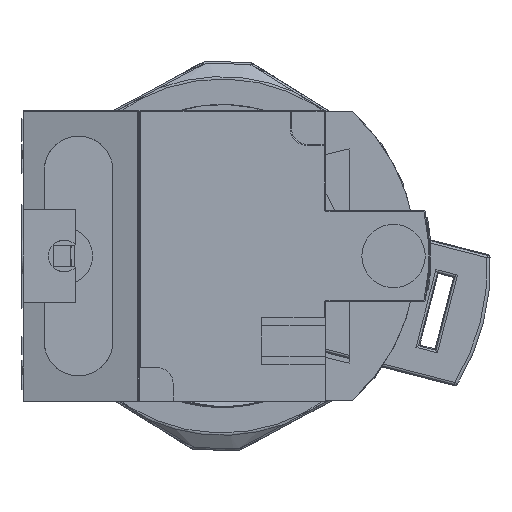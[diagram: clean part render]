
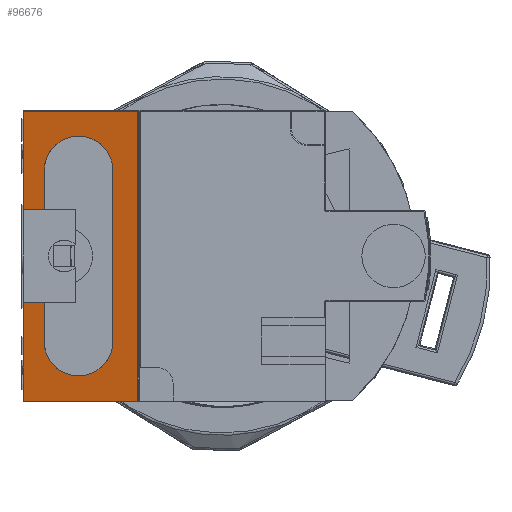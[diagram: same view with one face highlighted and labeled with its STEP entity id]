
A CAD part, front view. The second image highlights one B-rep face of the part: STEP entity #96676.
In plain terms, the highlighted planar face has unit normal (-0.255, -0.967, 0).
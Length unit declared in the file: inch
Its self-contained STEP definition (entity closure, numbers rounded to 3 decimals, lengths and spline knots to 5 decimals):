
#79 = CARTESIAN_POINT ( 'NONE',  ( 0.07874, 0.09341, 0.36811 ) ) ;
#275 = ORIENTED_EDGE ( 'NONE', *, *, #58567, .F. ) ;
#1517 = VECTOR ( 'NONE', #100541, 39.37008 ) ;
#2126 = VERTEX_POINT ( 'NONE', #69230 ) ;
#3287 = DIRECTION ( 'NONE',  ( 0., 0., 1. ) ) ;
#4461 = LINE ( 'NONE', #113732, #11371 ) ;
#5659 = PLANE ( 'NONE',  #112341 ) ;
#6343 = LINE ( 'NONE', #51091, #76660 ) ;
#8401 = VERTEX_POINT ( 'NONE', #99506 ) ;
#10036 = ORIENTED_EDGE ( 'NONE', *, *, #67113, .T. ) ;
#10471 = CARTESIAN_POINT ( 'NONE',  ( 0.33465, 0.02595, 1.11614 ) ) ;
#11371 = VECTOR ( 'NONE', #3287, 39.37008 ) ;
#12358 = VERTEX_POINT ( 'NONE', #46110 ) ;
#13504 = VECTOR ( 'NONE', #14279, 39.37008 ) ;
#14279 = DIRECTION ( 'NONE',  ( 0., 0., -1. ) ) ;
#15644 = VERTEX_POINT ( 'NONE', #79 ) ;
#15905 = EDGE_CURVE ( 'NONE', #63742, #45834, #70366, .T. ) ;
#16839 = CARTESIAN_POINT ( 'NONE',  ( 0., 0.11417, 0.36811 ) ) ;
#16847 = CARTESIAN_POINT ( 'NONE',  ( 0.42813, 0.0013, 0. ) ) ;
#17449 = EDGE_CURVE ( 'NONE', #8401, #12358, #73189, .T. ) ;
#20057 = DIRECTION ( 'NONE',  ( -0.967, 0.255, 0. ) ) ;
#21050 = LINE ( 'NONE', #68764, #72634 ) ;
#21360 = VERTEX_POINT ( 'NONE', #38644 ) ;
#21708 = CARTESIAN_POINT ( 'NONE',  ( 0., 0.11417, 1.08071 ) ) ;
#22455 = VERTEX_POINT ( 'NONE', #21708 ) ;
#23950 = ORIENTED_EDGE ( 'NONE', *, *, #37168, .F. ) ;
#24032 = CARTESIAN_POINT ( 'NONE',  ( 0.33465, 0.02595, -0.03346 ) ) ;
#24241 = ORIENTED_EDGE ( 'NONE', *, *, #113531, .T. ) ;
#28414 = DIRECTION ( 'NONE',  ( 0., 0., -1. ) ) ;
#31352 = DIRECTION ( 'NONE',  ( 0., 0., -1. ) ) ;
#32406 = CARTESIAN_POINT ( 'NONE',  ( 0.07874, 0.09341, 0.22244 ) ) ;
#32636 = VECTOR ( 'NONE', #42345, 39.37008 ) ;
#33790 = EDGE_CURVE ( 'NONE', #2126, #21360, #70182, .T. ) ;
#36583 = VECTOR ( 'NONE', #28414, 39.37008 ) ;
#37168 = EDGE_CURVE ( 'NONE', #45834, #104696, #46891, .T. ) ;
#38644 = CARTESIAN_POINT ( 'NONE',  ( 0.07874, 0.09341, 0.71457 ) ) ;
#39706 = CARTESIAN_POINT ( 'NONE',  ( 0.42813, 0.0013, 0. ) ) ;
#40302 = ORIENTED_EDGE ( 'NONE', *, *, #15905, .F. ) ;
#42345 = DIRECTION ( 'NONE',  ( 0., 0., 1. ) ) ;
#43892 = DIRECTION ( 'NONE',  ( 0.967, -0.255, 0. ) ) ;
#44205 = ORIENTED_EDGE ( 'NONE', *, *, #108849, .T. ) ;
#45834 = VERTEX_POINT ( 'NONE', #16847 ) ;
#46110 = CARTESIAN_POINT ( 'NONE',  ( 0.33465, 0.02595, 0.22244 ) ) ;
#46211 =( BOUNDED_CURVE ( )  B_SPLINE_CURVE ( 3, ( #106442, #24032, #52642, #32406 ),
 .UNSPECIFIED., .F., .T. ) 
 B_SPLINE_CURVE_WITH_KNOTS ( ( 4, 4 ),
 ( 3.14159, 6.28319 ),
 .UNSPECIFIED. ) 
 CURVE ( )  GEOMETRIC_REPRESENTATION_ITEM ( )  RATIONAL_B_SPLINE_CURVE ( ( 1., 0.333, 0.333, 1. ) ) 
 REPRESENTATION_ITEM ( '' )  );
#46891 = LINE ( 'NONE', #39706, #54455 ) ;
#46904 =( BOUNDED_CURVE ( )  B_SPLINE_CURVE ( 3, ( #64781, #83301, #10471, #72561 ),
 .UNSPECIFIED., .F., .F. ) 
 B_SPLINE_CURVE_WITH_KNOTS ( ( 4, 4 ),
 ( 3.14159, 6.28319 ),
 .UNSPECIFIED. ) 
 CURVE ( )  GEOMETRIC_REPRESENTATION_ITEM ( )  RATIONAL_B_SPLINE_CURVE ( ( 1., 0.333, 0.333, 1. ) ) 
 REPRESENTATION_ITEM ( '' )  );
#49815 = CARTESIAN_POINT ( 'NONE',  ( 0.42813, 0.0013, 1.08071 ) ) ;
#51091 = CARTESIAN_POINT ( 'NONE',  ( 0., 0.11417, 1.08071 ) ) ;
#52642 = CARTESIAN_POINT ( 'NONE',  ( 0.07874, 0.09341, -0.03346 ) ) ;
#52974 = ORIENTED_EDGE ( 'NONE', *, *, #58004, .F. ) ;
#54455 = VECTOR ( 'NONE', #20057, 39.37008 ) ;
#55272 = CARTESIAN_POINT ( 'NONE',  ( 0.33465, 0.02595, 0.86024 ) ) ;
#57538 = ORIENTED_EDGE ( 'NONE', *, *, #33790, .T. ) ;
#58004 = EDGE_CURVE ( 'NONE', #2126, #22455, #4461, .T. ) ;
#58051 = CARTESIAN_POINT ( 'NONE',  ( 0.07874, 0.09341, 0.71457 ) ) ;
#58567 = EDGE_CURVE ( 'NONE', #104696, #80962, #21050, .T. ) ;
#58776 = EDGE_LOOP ( 'NONE', ( #40302, #105295, #52974, #57538, #104427, #24241, #82817, #44205, #10036, #82447, #275, #23950 ) ) ;
#63742 = VERTEX_POINT ( 'NONE', #49815 ) ;
#64781 = CARTESIAN_POINT ( 'NONE',  ( 0.07874, 0.09341, 0.86024 ) ) ;
#66329 = CARTESIAN_POINT ( 'NONE',  ( 0.07874, 0.09341, 0.22244 ) ) ;
#66401 = VERTEX_POINT ( 'NONE', #66329 ) ;
#67113 = EDGE_CURVE ( 'NONE', #66401, #15644, #78536, .T. ) ;
#68764 = CARTESIAN_POINT ( 'NONE',  ( 0., 0.11417, 0. ) ) ;
#69230 = CARTESIAN_POINT ( 'NONE',  ( 0., 0.11417, 0.71457 ) ) ;
#70182 = LINE ( 'NONE', #116181, #89426 ) ;
#70366 = LINE ( 'NONE', #115188, #13504 ) ;
#72561 = CARTESIAN_POINT ( 'NONE',  ( 0.33465, 0.02595, 0.86024 ) ) ;
#72634 = VECTOR ( 'NONE', #75350, 39.37008 ) ;
#73189 = LINE ( 'NONE', #55272, #36583 ) ;
#74148 = DIRECTION ( 'NONE',  ( 0.967, -0.255, 0. ) ) ;
#75350 = DIRECTION ( 'NONE',  ( 0., 0., 1. ) ) ;
#76660 = VECTOR ( 'NONE', #43892, 39.37008 ) ;
#76718 = FACE_OUTER_BOUND ( 'NONE', #58776, .T. ) ;
#78536 = LINE ( 'NONE', #90445, #109913 ) ;
#79524 = EDGE_CURVE ( 'NONE', #21360, #98960, #94510, .T. ) ;
#80962 = VERTEX_POINT ( 'NONE', #16839 ) ;
#82447 = ORIENTED_EDGE ( 'NONE', *, *, #115933, .T. ) ;
#82817 = ORIENTED_EDGE ( 'NONE', *, *, #17449, .T. ) ;
#83301 = CARTESIAN_POINT ( 'NONE',  ( 0.07874, 0.09341, 1.11614 ) ) ;
#89426 = VECTOR ( 'NONE', #74148, 39.37008 ) ;
#90373 = CARTESIAN_POINT ( 'NONE',  ( 0.07874, 0.09341, 0.36811 ) ) ;
#90445 = CARTESIAN_POINT ( 'NONE',  ( 0.07874, 0.09341, 0.22244 ) ) ;
#91089 = CARTESIAN_POINT ( 'NONE',  ( 0., 0.11417, 0. ) ) ;
#94510 = LINE ( 'NONE', #58051, #32636 ) ;
#96422 = DIRECTION ( 'NONE',  ( 0.255, 0.967, 0. ) ) ;
#96676 = ADVANCED_FACE ( 'NONE', ( #76718 ), #5659, .F. ) ;
#98960 = VERTEX_POINT ( 'NONE', #106518 ) ;
#99421 = DIRECTION ( 'NONE',  ( 0., 0., 1. ) ) ;
#99506 = CARTESIAN_POINT ( 'NONE',  ( 0.33465, 0.02595, 0.86024 ) ) ;
#100541 = DIRECTION ( 'NONE',  ( -0.967, 0.255, 0. ) ) ;
#103317 = EDGE_CURVE ( 'NONE', #22455, #63742, #6343, .T. ) ;
#104427 = ORIENTED_EDGE ( 'NONE', *, *, #79524, .T. ) ;
#104696 = VERTEX_POINT ( 'NONE', #91089 ) ;
#105295 = ORIENTED_EDGE ( 'NONE', *, *, #103317, .F. ) ;
#106442 = CARTESIAN_POINT ( 'NONE',  ( 0.33465, 0.02595, 0.22244 ) ) ;
#106518 = CARTESIAN_POINT ( 'NONE',  ( 0.07874, 0.09341, 0.86024 ) ) ;
#107127 = LINE ( 'NONE', #90373, #1517 ) ;
#108849 = EDGE_CURVE ( 'NONE', #12358, #66401, #46211, .T. ) ;
#109913 = VECTOR ( 'NONE', #99421, 39.37008 ) ;
#112341 = AXIS2_PLACEMENT_3D ( 'NONE', #113184, #96422, #31352 ) ;
#113184 = CARTESIAN_POINT ( 'NONE',  ( 0.43307, 0., 1.08268 ) ) ;
#113531 = EDGE_CURVE ( 'NONE', #98960, #8401, #46904, .T. ) ;
#113732 = CARTESIAN_POINT ( 'NONE',  ( 0., 0.11417, 0.71457 ) ) ;
#115188 = CARTESIAN_POINT ( 'NONE',  ( 0.42813, 0.0013, 1.08071 ) ) ;
#115933 = EDGE_CURVE ( 'NONE', #15644, #80962, #107127, .T. ) ;
#116181 = CARTESIAN_POINT ( 'NONE',  ( 0., 0.11417, 0.71457 ) ) ;
